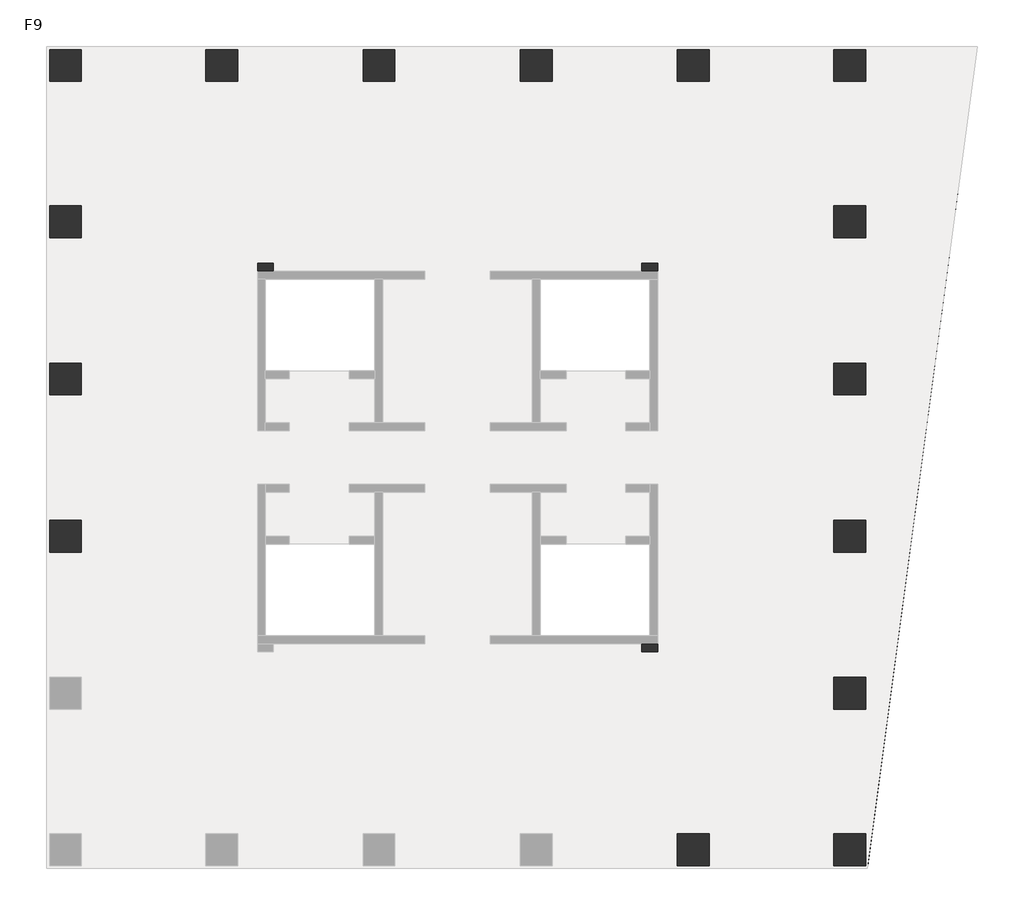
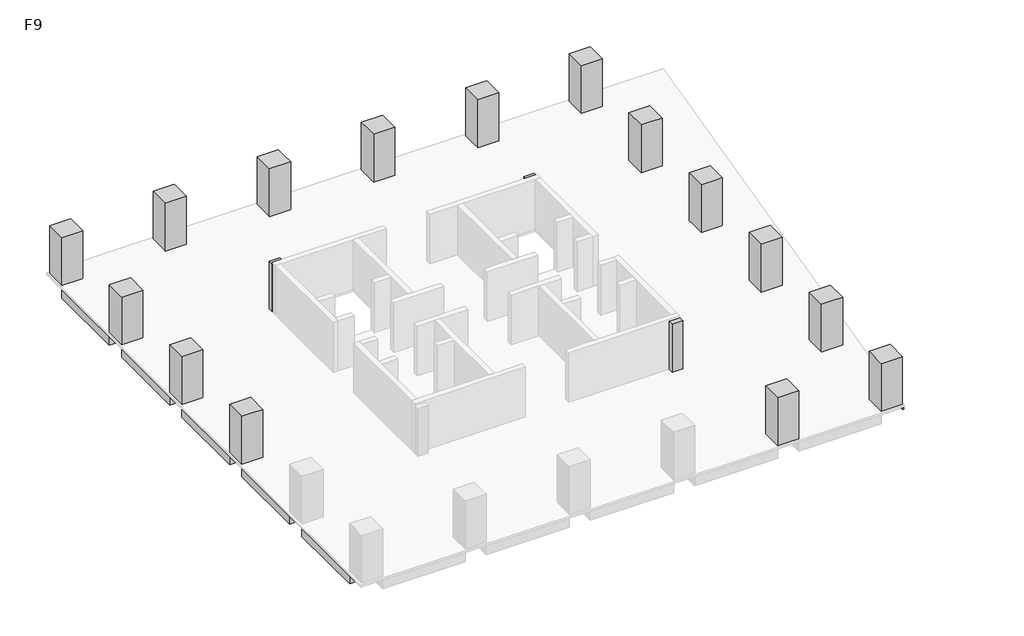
# One storey, part 2 of 2: 21 beams, 18 columns.
"""IFC4 building model written with IfcOpenShell, lengths in millimetres."""

from ifc_helpers import new_model, si_unit, frame, origin, place, context, project, spatial, polyline, outline, extrude, faceted_brep, element, save

model = new_model("IFC4")

# Units and contexts
model_context = context("Model", 3, world=origin())
ifc_project = project(units=[si_unit("LENGTHUNIT", "METRE", prefix="MILLI")], contexts=[model_context])

# Site, building, storey
site = spatial("IfcSite", under=ifc_project)
building = spatial("IfcBuilding", under=site)
storey = spatial("IfcBuildingStorey", under=building, Name="F9", Elevation=36000.0)

# Beams
placement = place(None, origin())
element("IfcBeam", 1, ObjectType="混凝土 - 矩形梁 : KL(5)-800x1000", at=placement, inside=storey, context=model_context, shape_type="SweptSolid", body=[
    extrude(outline(polyline([(25327.3257831, 27051.0498658), (25327.3257831, 26251.0498658), (19077.3257831, 26251.0498658), (19077.3257831, 27051.0498658), (25327.3257831, 27051.0498658)])), frame((0.0, 0.0, 35000.0), z_axis=(0.0, 0.0, 1.0), x_axis=(1.0, 0.0, 0.0)), (0.0, 0.0, 1.0), 840.0),
    extrude(outline(polyline([(-12472.6742169, 26251.0498658), (-12472.6742169, 27051.0498658), (-6222.6742169, 27051.0498658), (-6222.6742169, 26251.0498658), (-12472.6742169, 26251.0498658)])), frame((0.0, 0.0, 35000.0), z_axis=(0.0, 0.0, 1.0), x_axis=(1.0, 0.0, 0.0)), (0.0, 0.0, 1.0), 840.0),
    extrude(outline(polyline([(-4622.6742169, 26251.0498658), (-4622.6742169, 27051.0498658), (1677.3257831, 27051.0498658), (1677.3257831, 26251.0498658), (-4622.6742169, 26251.0498658)])), frame((0.0, 0.0, 35000.0), z_axis=(0.0, 0.0, 1.0), x_axis=(1.0, 0.0, 0.0)), (0.0, 0.0, 1.0), 840.0),
    extrude(outline(polyline([(3277.3257831, 26251.0498658), (3277.3257831, 27051.0498658), (9577.3257831, 27051.0498658), (9577.3257831, 26251.0498658), (3277.3257831, 26251.0498658)])), frame((0.0, 0.0, 35000.0), z_axis=(0.0, 0.0, 1.0), x_axis=(1.0, 0.0, 0.0)), (0.0, 0.0, 1.0), 840.0),
    extrude(outline(polyline([(11177.3257831, 26251.0498658), (11177.3257831, 27051.0498658), (17477.3257831, 27051.0498658), (17477.3257831, 26251.0498658), (11177.3257831, 26251.0498658)])), frame((0.0, 0.0, 35000.0), z_axis=(0.0, 0.0, 1.0), x_axis=(1.0, 0.0, 0.0)), (0.0, 0.0, 1.0), 840.0),
])
element("IfcBeam", 2, ObjectType="混凝土 - 矩形梁 : KL(5)-800x1000", at=placement, inside=storey, context=model_context, shape_type="Brep", body=[
    faceted_brep([(26927.3257831, 26251.0498658, 35000.0), (32422.0087099, 26251.0498658, 35000.0), (32422.0087099, 26251.0498658, 35840.0), (32018.4257091, 26251.0498658, 35840.0), (26927.3257831, 26251.0498658, 35840.0), (32422.0087099, 27051.0498658, 35000.0), (26927.3257831, 27051.0498658, 35000.0), (26927.3257831, 27051.0498658, 35840.0), (32422.0087099, 27051.0498658, 35840.0)], [[[0, 1, 2, 3, 4]], [[5, 1, 0, 6]], [[5, 6, 7, 8]], [[1, 5, 8, 2]], [[6, 0, 4, 7]], [[4, 3, 2, 8, 7]]]),
])
element("IfcBeam", 3, ObjectType="混凝土 - 矩形梁 : KL(5)-800x1000", at=placement, inside=storey, context=model_context, shape_type="Brep", body=[
    faceted_brep([(26127.3257831, -6098.9501342, 35000.0), (26127.3257831, -12348.9501342, 35000.0), (26127.3257831, -12348.9501342, 35840.0), (26127.3257831, -6098.9501342, 35840.0), (26927.3257831, -12348.9501342, 35000.0), (26927.3257831, -6098.9501342, 35000.0), (26927.3257831, -6098.9501342, 35840.0), (26927.3257831, -11700.7859463, 35840.0), (26927.3257831, -12348.9501342, 35840.0)], [[[0, 1, 2, 3]], [[4, 1, 0, 5]], [[4, 5, 6, 7, 8]], [[1, 4, 8, 2]], [[5, 0, 3, 6]], [[3, 2, 8, 7, 6]]]),
    faceted_brep([(26927.3257831, 25451.0498658, 35000.0), (26127.3257831, 25451.0498658, 35000.0), (26127.3257831, 25451.0498658, 35840.0), (26927.3257831, 25451.0498658, 35840.0), (26127.3257831, 19201.0498658, 35000.0), (26927.3257831, 19201.0498658, 35000.0), (26927.3257831, 19201.0498658, 35840.0), (26127.3257831, 19201.0498658, 35840.0)], [[[0, 1, 2, 3]], [[4, 5, 6, 7]], [[1, 4, 7, 2]], [[1, 0, 5, 4]], [[5, 0, 3, 6]], [[3, 2, 7, 6]]]),
    faceted_brep([(26927.3257831, 17601.0498658, 35000.0), (26127.3257831, 17601.0498658, 35000.0), (26127.3257831, 17601.0498658, 35840.0), (26927.3257831, 17601.0498658, 35840.0), (26127.3257831, 11301.0498658, 35000.0), (26927.3257831, 11301.0498658, 35000.0), (26927.3257831, 11301.0498658, 35840.0), (26127.3257831, 11301.0498658, 35840.0)], [[[0, 1, 2, 3]], [[4, 5, 6, 7]], [[1, 4, 7, 2]], [[1, 0, 5, 4]], [[5, 0, 3, 6]], [[3, 2, 7, 6]]]),
    faceted_brep([(26927.3257831, 9701.0498658, 35000.0), (26127.3257831, 9701.0498658, 35000.0), (26127.3257831, 9701.0498658, 35840.0), (26927.3257831, 9701.0498658, 35840.0), (26127.3257831, 3401.0498658, 35000.0), (26927.3257831, 3401.0498658, 35000.0), (26927.3257831, 3401.0498658, 35840.0), (26127.3257831, 3401.0498658, 35840.0)], [[[0, 1, 2, 3]], [[4, 5, 6, 7]], [[1, 4, 7, 2]], [[1, 0, 5, 4]], [[5, 0, 3, 6]], [[3, 2, 7, 6]]]),
    faceted_brep([(26927.3257831, 1801.0498658, 35000.0), (26127.3257831, 1801.0498658, 35000.0), (26127.3257831, 1801.0498658, 35840.0), (26927.3257831, 1801.0498658, 35840.0), (26127.3257831, -4498.9501342, 35000.0), (26927.3257831, -4498.9501342, 35000.0), (26927.3257831, -4498.9501342, 35840.0), (26127.3257831, -4498.9501342, 35840.0)], [[[0, 1, 2, 3]], [[4, 5, 6, 7]], [[1, 4, 7, 2]], [[1, 0, 5, 4]], [[5, 0, 3, 6]], [[3, 2, 7, 6]]]),
])
element("IfcBeam", 4, ObjectType="混凝土 - 矩形梁 : KL(5)-800x1000", at=placement, inside=storey, context=model_context, shape_type="SweptSolid", body=[
    extrude(outline(polyline([(-14072.6742169, 25451.0498658), (-13272.6742169, 25451.0498658), (-13272.6742169, 19201.0498658), (-14072.6742169, 19201.0498658), (-14072.6742169, 25451.0498658)])), frame((0.0, 0.0, 35000.0), z_axis=(0.0, 0.0, 1.0), x_axis=(1.0, 0.0, 0.0)), (0.0, 0.0, 1.0), 840.0),
    extrude(outline(polyline([(-13272.6742169, -12348.9501342), (-14072.6742169, -12348.9501342), (-14072.6742169, -6098.9501342), (-13272.6742169, -6098.9501342), (-13272.6742169, -12348.9501342)])), frame((0.0, 0.0, 35000.0), z_axis=(0.0, 0.0, 1.0), x_axis=(1.0, 0.0, 0.0)), (0.0, 0.0, 1.0), 840.0),
    extrude(outline(polyline([(-14072.6742169, 17601.0498658), (-13272.6742169, 17601.0498658), (-13272.6742169, 11301.0498658), (-14072.6742169, 11301.0498658), (-14072.6742169, 17601.0498658)])), frame((0.0, 0.0, 35000.0), z_axis=(0.0, 0.0, 1.0), x_axis=(1.0, 0.0, 0.0)), (0.0, 0.0, 1.0), 840.0),
    extrude(outline(polyline([(-14072.6742169, 9701.0498658), (-13272.6742169, 9701.0498658), (-13272.6742169, 3401.0498658), (-14072.6742169, 3401.0498658), (-14072.6742169, 9701.0498658)])), frame((0.0, 0.0, 35000.0), z_axis=(0.0, 0.0, 1.0), x_axis=(1.0, 0.0, 0.0)), (0.0, 0.0, 1.0), 840.0),
    extrude(outline(polyline([(-14072.6742169, 1801.0498658), (-13272.6742169, 1801.0498658), (-13272.6742169, -4498.9501342), (-14072.6742169, -4498.9501342), (-14072.6742169, 1801.0498658)])), frame((0.0, 0.0, 35000.0), z_axis=(0.0, 0.0, 1.0), x_axis=(1.0, 0.0, 0.0)), (0.0, 0.0, 1.0), 840.0),
])
element("IfcBeam", 5, ObjectType="混凝土 - 矩形梁 : L1-800x500", at=placement, inside=storey, context=model_context, shape_type="SweptSolid", body=[
    extrude(outline(polyline([(-12472.6742169, 2201.0498658), (-12472.6742169, 3001.0498658), (-3622.6742169, 3001.0498658), (-3622.6742169, 2201.0498658), (-12472.6742169, 2201.0498658)])), frame((0.0, 0.0, 35500.0), z_axis=(0.0, 0.0, 1.0), x_axis=(1.0, 0.0, 0.0)), (0.0, 0.0, 1.0), 340.0),
])
element("IfcBeam", 6, ObjectType="混凝土 - 矩形梁 : L1-800x500", at=placement, inside=storey, context=model_context, shape_type="SweptSolid", body=[
    extrude(outline(polyline([(-12472.6742169, 10101.0498658), (-12472.6742169, 10901.0498658), (-3622.6742169, 10901.0498658), (-3622.6742169, 10101.0498658), (-12472.6742169, 10101.0498658)])), frame((0.0, 0.0, 35500.0), z_axis=(0.0, 0.0, 1.0), x_axis=(1.0, 0.0, 0.0)), (0.0, 0.0, 1.0), 340.0),
])
element("IfcBeam", 7, ObjectType="混凝土 - 矩形梁 : L1-800x500", at=placement, inside=storey, context=model_context, shape_type="Brep", body=[
    faceted_brep([(-12472.6742169, 17789.85471, 35500.0), (-3622.6742169, 15588.3621727, 35500.0), (-3622.6742169, 15588.3621727, 35840.0), (-12472.6742169, 17789.85471, 35840.0), (-3173.6696907, 16301.0498658, 35500.0), (-3622.6742169, 16301.0498658, 35500.0), (-3622.6742169, 15901.0498658, 35500.0), (-12472.6742169, 18614.2350714, 35500.0), (-3746.9473979, 16443.6562607, 35500.0), (-12472.6742169, 18614.2350714, 35840.0), (-3746.9473979, 16443.6562607, 35840.0), (-3173.6696907, 16301.0498658, 35840.0), (-3622.6742169, 16301.0498658, 35840.0)], [[[0, 1, 2, 3]], [[4, 5, 6, 1, 0, 7, 8]], [[4, 8, 7, 9, 10, 11]], [[6, 5, 12, 2, 1]], [[5, 4, 11, 12]], [[7, 0, 3, 9]], [[3, 2, 12, 11, 10, 9]]]),
])
element("IfcBeam", 8, ObjectType="混凝土 - 矩形梁 : L1-800x500", at=placement, inside=storey, context=model_context, shape_type="SweptSolid", body=[
    extrude(outline(polyline([(-3173.6696907, 16301.0498658), (-3746.9473979, 16443.6562607), (-5661.5624638, 25451.0498658), (-4843.6893517, 25451.0498658), (-2898.7618154, 16301.0498658), (-3173.6696907, 16301.0498658)])), frame((0.0, 0.0, 35500.0), z_axis=(0.0, 0.0, 1.0), x_axis=(1.0, 0.0, 0.0)), (0.0, 0.0, 1.0), 340.0),
])
element("IfcBeam", 9, ObjectType="混凝土 - 矩形梁 : L1-800x500", at=placement, inside=storey, context=model_context, shape_type="SweptSolid", body=[
    extrude(outline(polyline([(2077.3257831, 25451.0498658), (2877.3257831, 25451.0498658), (2877.3257831, 15901.0498658), (2077.3257831, 15901.0498658), (2077.3257831, 25451.0498658)])), frame((0.0, 0.0, 35500.0), z_axis=(0.0, 0.0, 1.0), x_axis=(1.0, 0.0, 0.0)), (0.0, 0.0, 1.0), 340.0),
])
element("IfcBeam", 10, ObjectType="混凝土 - 矩形梁 : L1-800x500", at=placement, inside=storey, context=model_context, shape_type="SweptSolid", body=[
    extrude(outline(polyline([(9977.3257831, 25451.0498658), (10777.3257831, 25451.0498658), (10777.3257831, 15901.0498658), (9977.3257831, 15901.0498658), (9977.3257831, 25451.0498658)])), frame((0.0, 0.0, 35500.0), z_axis=(0.0, 0.0, 1.0), x_axis=(1.0, 0.0, 0.0)), (0.0, 0.0, 1.0), 340.0),
])
element("IfcBeam", 11, ObjectType="混凝土 - 矩形梁 : L1-800x500", at=placement, inside=storey, context=model_context, shape_type="Brep", body=[
    faceted_brep([(25327.3257831, -4687.7549784, 35500.0), (16477.3257831, -2486.2624411, 35500.0), (16477.3257831, -2486.2624411, 35840.0), (25327.3257831, -4687.7549784, 35840.0), (16028.3212569, -3198.9501342, 35500.0), (16477.3257831, -3198.9501342, 35500.0), (16477.3257831, -2798.9501342, 35500.0), (25327.3257831, -5512.1353397, 35500.0), (16601.5989641, -3341.556529, 35500.0), (25327.3257831, -5512.1353397, 35840.0), (16601.5989641, -3341.556529, 35840.0), (16028.3212569, -3198.9501342, 35840.0), (16477.3257831, -3198.9501342, 35840.0)], [[[0, 1, 2, 3]], [[4, 5, 6, 1, 0, 7, 8]], [[4, 8, 7, 9, 10, 11]], [[6, 5, 12, 2, 1]], [[5, 4, 11, 12]], [[7, 0, 3, 9]], [[3, 2, 12, 11, 10, 9]]]),
])
element("IfcBeam", 12, ObjectType="混凝土 - 矩形梁 : L1-800x500", at=placement, inside=storey, context=model_context, shape_type="SweptSolid", body=[
    extrude(outline(polyline([(16028.3212569, -3198.9501342), (16601.5989641, -3341.556529), (18516.21403, -12348.9501342), (17698.3409179, -12348.9501342), (15753.4133817, -3198.9501342), (16028.3212569, -3198.9501342)])), frame((0.0, 0.0, 35500.0), z_axis=(0.0, 0.0, 1.0), x_axis=(1.0, 0.0, 0.0)), (0.0, 0.0, 1.0), 340.0),
])
element("IfcBeam", 13, ObjectType="混凝土 - 矩形梁 : L1-800x500", at=placement, inside=storey, context=model_context, shape_type="SweptSolid", body=[
    extrude(outline(polyline([(25327.3257831, 3001.0498658), (25327.3257831, 2201.0498658), (16477.3257831, 2201.0498658), (16477.3257831, 3001.0498658), (25327.3257831, 3001.0498658)])), frame((0.0, 0.0, 35500.0), z_axis=(0.0, 0.0, 1.0), x_axis=(1.0, 0.0, 0.0)), (0.0, 0.0, 1.0), 340.0),
])
element("IfcBeam", 14, ObjectType="混凝土 - 矩形梁 : L1-800x500", at=placement, inside=storey, context=model_context, shape_type="SweptSolid", body=[
    extrude(outline(polyline([(25327.3257831, 10901.0498658), (25327.3257831, 10101.0498658), (16477.3257831, 10101.0498658), (16477.3257831, 10901.0498658), (25327.3257831, 10901.0498658)])), frame((0.0, 0.0, 35500.0), z_axis=(0.0, 0.0, 1.0), x_axis=(1.0, 0.0, 0.0)), (0.0, 0.0, 1.0), 340.0),
])
element("IfcBeam", 15, ObjectType="混凝土 - 矩形梁 : L1-800x500", at=placement, inside=storey, context=model_context, shape_type="Brep", body=[
    faceted_brep([(25327.3257831, 18610.6867312, 35500.0), (16590.8993897, 16393.3196262, 35500.0), (16227.3565337, 16301.0498658, 35500.0), (16227.3565337, 16301.0498658, 35840.0), (16590.8993897, 16393.3196262, 35840.0), (25327.3257831, 18610.6867312, 35840.0), (16477.3257831, 16301.0498658, 35500.0), (25327.3257831, 17785.3216299, 35500.0), (16477.3257831, 15539.1287365, 35500.0), (16477.3257831, 15901.0498658, 35500.0), (25327.3257831, 17785.3216299, 35840.0), (16477.3257831, 15539.1287365, 35840.0), (16477.3257831, 16301.0498658, 35840.0)], [[[0, 1, 2, 3, 4, 5]], [[6, 2, 1, 0, 7, 8, 9]], [[8, 7, 10, 11]], [[9, 8, 11, 12, 6]], [[2, 6, 12, 3]], [[7, 0, 5, 10]], [[5, 4, 3, 12, 11, 10]]]),
])
element("IfcBeam", 16, ObjectType="混凝土 - 矩形梁 : L1-800x500", at=placement, inside=storey, context=model_context, shape_type="SweptSolid", body=[
    extrude(outline(polyline([(16590.8993897, 16393.3196262), (16227.3565337, 16301.0498658), (15753.4133817, 16301.0498658), (17698.3409179, 25451.0498658), (18516.21403, 25451.0498658), (16590.8993897, 16393.3196262)])), frame((0.0, 0.0, 35500.0), z_axis=(0.0, 0.0, 1.0), x_axis=(1.0, 0.0, 0.0)), (0.0, 0.0, 1.0), 340.0),
])
element("IfcBeam", 17, ObjectType="混凝土 - 矩形梁 : L2-400x400", at=placement, inside=storey, context=model_context, shape_type="Brep", body=[
    faceted_brep([(32422.0087099, 26251.0498658, 35600.0), (27029.3257831, -13948.9501342, 35600.0), (26927.3257831, -13935.2672073, 35600.0), (26927.3257831, -11700.7859463, 35600.0), (27759.2793677, -5498.9501342, 35600.0), (27812.9379042, -5098.9501342, 35600.0), (28819.0354652, 2401.0498658, 35600.0), (28872.6940018, 2801.0498658, 35600.0), (29878.7915628, 10301.0498658, 35600.0), (29932.4500994, 10701.0498658, 35600.0), (30938.5476603, 18201.0498658, 35600.0), (30992.2061969, 18601.0498658, 35600.0), (32018.4257091, 26251.0498658, 35600.0), (32422.0087099, 26251.0498658, 35840.0), (27029.3257831, -13948.9501342, 35840.0), (32018.4257091, 26251.0498658, 35840.0), (26927.3257831, -13935.2672073, 35840.0), (26927.3257831, -12348.9501342, 35840.0), (26927.3257831, -11700.7859463, 35840.0), (27759.2793677, -5498.9501342, 35840.0), (27812.9379042, -5098.9501342, 35840.0), (28819.0354652, 2401.0498658, 35840.0), (28872.6940018, 2801.0498658, 35840.0), (29878.7915628, 10301.0498658, 35840.0), (29932.4500994, 10701.0498658, 35840.0), (30938.5476603, 18201.0498658, 35840.0), (30992.2061969, 18601.0498658, 35840.0)], [[[0, 1, 2, 3, 4, 5, 6, 7, 8, 9, 10, 11, 12]], [[1, 0, 13, 14]], [[0, 12, 15, 13]], [[3, 2, 16, 17, 18]], [[12, 11, 10, 9, 8, 7, 6, 5, 4, 3, 18, 19, 20, 21, 22, 23, 24, 25, 26, 15]], [[2, 1, 14, 16]], [[14, 13, 15, 26, 25, 24, 23, 22, 21, 20, 19, 18, 17, 16]]]),
])
element("IfcBeam", 18, ObjectType="混凝土 - 矩形梁 : L2-400x400", at=placement, inside=storey, context=model_context, shape_type="SweptSolid", body=[
    extrude(outline(polyline([(30938.5476603, 18201.0498658), (26927.3257831, 18201.0498658), (26927.3257831, 18601.0498658), (30992.2061969, 18601.0498658), (30938.5476603, 18201.0498658)])), frame((0.0, 0.0, 35600.0), z_axis=(0.0, 0.0, 1.0), x_axis=(1.0, 0.0, 0.0)), (0.0, 0.0, 1.0), 240.0),
])
element("IfcBeam", 19, ObjectType="混凝土 - 矩形梁 : L2-400x400", at=placement, inside=storey, context=model_context, shape_type="SweptSolid", body=[
    extrude(outline(polyline([(29878.7915628, 10301.0498658), (26927.3257831, 10301.0498658), (26927.3257831, 10701.0498658), (29932.4500994, 10701.0498658), (29878.7915628, 10301.0498658)])), frame((0.0, 0.0, 35600.0), z_axis=(0.0, 0.0, 1.0), x_axis=(1.0, 0.0, 0.0)), (0.0, 0.0, 1.0), 240.0),
])
element("IfcBeam", 20, ObjectType="混凝土 - 矩形梁 : L2-400x400", at=placement, inside=storey, context=model_context, shape_type="SweptSolid", body=[
    extrude(outline(polyline([(28819.0354652, 2401.0498658), (26927.3257831, 2401.0498658), (26927.3257831, 2801.0498658), (28872.6940018, 2801.0498658), (28819.0354652, 2401.0498658)])), frame((0.0, 0.0, 35600.0), z_axis=(0.0, 0.0, 1.0), x_axis=(1.0, 0.0, 0.0)), (0.0, 0.0, 1.0), 240.0),
])
element("IfcBeam", 21, ObjectType="混凝土 - 矩形梁 : L2-400x400", at=placement, inside=storey, context=model_context, shape_type="SweptSolid", body=[
    extrude(outline(polyline([(27759.2793677, -5498.9501342), (26927.3257831, -5498.9501342), (26927.3257831, -5098.9501342), (27812.9379042, -5098.9501342), (27759.2793677, -5498.9501342)])), frame((0.0, 0.0, 35600.0), z_axis=(0.0, 0.0, 1.0), x_axis=(1.0, 0.0, 0.0)), (0.0, 0.0, 1.0), 240.0),
])

# Columns
element("IfcColumn", 22, ObjectType="混凝土 - 矩形 - 柱 : Z1-1600x1600", at=placement, inside=storey, context=model_context, shape_type="SweptSolid", body=[
    extrude(outline(polyline([(-12472.6742169, 27051.0498658), (-12472.6742169, 25451.0498658), (-14072.6742169, 25451.0498658), (-14072.6742169, 27051.0498658), (-12472.6742169, 27051.0498658)])), frame((0.0, 0.0, 36000.0), z_axis=(0.0, 0.0, 1.0), x_axis=(1.0, 0.0, 0.0)), (0.0, 0.0, 1.0), 3840.0),
])
element("IfcColumn", 23, ObjectType="混凝土 - 矩形 - 柱 : Z1-1600x1600", at=placement, inside=storey, context=model_context, shape_type="Brep", body=[
    faceted_brep([(-4622.6742169, 27051.0498658, 36000.0), (-4622.6742169, 25451.0498658, 36000.0), (-6222.6742169, 25451.0498658, 36000.0), (-6222.6742169, 27051.0498658, 36000.0), (-4622.6742169, 27051.0498658, 39000.0), (-4622.6742169, 27051.0498658, 39840.0), (-4622.6742169, 26251.0498658, 39840.0), (-4622.6742169, 25451.0498658, 39840.0), (-6222.6742169, 25451.0498658, 39840.0), (-6222.6742169, 26251.0498658, 39840.0), (-6222.6742169, 27051.0498658, 39840.0), (-6222.6742169, 27051.0498658, 39000.0)], [[[0, 1, 2, 3]], [[1, 0, 4, 5, 6, 7]], [[2, 1, 7, 8]], [[3, 2, 8, 9, 10, 11]], [[0, 3, 11, 10, 5, 4]], [[7, 6, 5, 10, 9, 8]]]),
])
element("IfcColumn", 24, ObjectType="混凝土 - 矩形 - 柱 : Z1-1600x1600", at=placement, inside=storey, context=model_context, shape_type="Brep", body=[
    faceted_brep([(-12472.6742169, 19201.0498658, 36000.0), (-12472.6742169, 17601.0498658, 36000.0), (-14072.6742169, 17601.0498658, 36000.0), (-14072.6742169, 19201.0498658, 36000.0), (-12472.6742169, 19201.0498658, 39840.0), (-12472.6742169, 17601.0498658, 39840.0), (-13272.6742169, 17601.0498658, 39840.0), (-14072.6742169, 17601.0498658, 39840.0), (-14072.6742169, 17601.0498658, 39000.0), (-14072.6742169, 19201.0498658, 39840.0), (-14072.6742169, 19201.0498658, 39000.0), (-13272.6742169, 19201.0498658, 39840.0)], [[[0, 1, 2, 3]], [[1, 0, 4, 5]], [[2, 1, 5, 6, 7, 8]], [[3, 2, 8, 7, 9, 10]], [[0, 3, 10, 9, 11, 4]], [[5, 4, 11, 9, 7, 6]]]),
])
element("IfcColumn", 25, ObjectType="混凝土 - 矩形 - 柱 : Z1-1600x1600", at=placement, inside=storey, context=model_context, shape_type="Brep", body=[
    faceted_brep([(-12472.6742169, 11301.0498658, 36000.0), (-12472.6742169, 9701.0498658, 36000.0), (-14072.6742169, 9701.0498658, 36000.0), (-14072.6742169, 11301.0498658, 36000.0), (-12472.6742169, 11301.0498658, 39840.0), (-12472.6742169, 9701.0498658, 39840.0), (-13272.6742169, 9701.0498658, 39840.0), (-14072.6742169, 9701.0498658, 39840.0), (-14072.6742169, 9701.0498658, 39000.0), (-14072.6742169, 11301.0498658, 39840.0), (-14072.6742169, 11301.0498658, 39000.0), (-13272.6742169, 11301.0498658, 39840.0)], [[[0, 1, 2, 3]], [[1, 0, 4, 5]], [[2, 1, 5, 6, 7, 8]], [[3, 2, 8, 7, 9, 10]], [[0, 3, 10, 9, 11, 4]], [[5, 4, 11, 9, 7, 6]]]),
])
element("IfcColumn", 26, ObjectType="混凝土 - 矩形 - 柱 : Z1-1600x1600", at=placement, inside=storey, context=model_context, shape_type="Brep", body=[
    faceted_brep([(-12472.6742169, 3401.0498658, 36000.0), (-12472.6742169, 1801.0498658, 36000.0), (-14072.6742169, 1801.0498658, 36000.0), (-14072.6742169, 3401.0498658, 36000.0), (-12472.6742169, 3401.0498658, 39840.0), (-12472.6742169, 1801.0498658, 39840.0), (-13272.6742169, 1801.0498658, 39840.0), (-14072.6742169, 1801.0498658, 39840.0), (-14072.6742169, 1801.0498658, 39000.0), (-14072.6742169, 3401.0498658, 39840.0), (-14072.6742169, 3401.0498658, 39000.0), (-13272.6742169, 3401.0498658, 39840.0)], [[[0, 1, 2, 3]], [[1, 0, 4, 5]], [[2, 1, 5, 6, 7, 8]], [[3, 2, 8, 7, 9, 10]], [[0, 3, 10, 9, 11, 4]], [[5, 4, 11, 9, 7, 6]]]),
])
element("IfcColumn", 27, ObjectType="混凝土 - 矩形 - 柱 : Z1-1600x1600", at=placement, inside=storey, context=model_context, shape_type="SweptSolid", body=[
    extrude(outline(polyline([(25327.3257831, 27051.0498658), (26927.3257831, 27051.0498658), (26927.3257831, 25451.0498658), (25327.3257831, 25451.0498658), (25327.3257831, 27051.0498658)])), frame((0.0, 0.0, 36000.0), z_axis=(0.0, 0.0, 1.0), x_axis=(1.0, 0.0, 0.0)), (0.0, 0.0, 1.0), 3840.0),
])
element("IfcColumn", 28, ObjectType="混凝土 - 矩形 - 柱 : Z1-1600x1600", at=placement, inside=storey, context=model_context, shape_type="Brep", body=[
    faceted_brep([(25327.3257831, 19201.0498658, 36000.0), (26927.3257831, 19201.0498658, 36000.0), (26927.3257831, 17601.0498658, 36000.0), (25327.3257831, 17601.0498658, 36000.0), (25327.3257831, 17601.0498658, 39840.0), (25327.3257831, 19201.0498658, 39840.0), (26927.3257831, 17601.0498658, 39000.0), (26927.3257831, 17601.0498658, 39840.0), (26127.3257831, 17601.0498658, 39840.0), (26927.3257831, 19201.0498658, 39000.0), (26927.3257831, 19201.0498658, 39840.0), (26127.3257831, 19201.0498658, 39840.0)], [[[0, 1, 2, 3]], [[0, 3, 4, 5]], [[3, 2, 6, 7, 8, 4]], [[2, 1, 9, 10, 7, 6]], [[1, 0, 5, 11, 10, 9]], [[5, 4, 8, 7, 10, 11]]]),
])
element("IfcColumn", 29, ObjectType="混凝土 - 矩形 - 柱 : Z1-1600x1600", at=placement, inside=storey, context=model_context, shape_type="Brep", body=[
    faceted_brep([(25327.3257831, 11301.0498658, 36000.0), (26927.3257831, 11301.0498658, 36000.0), (26927.3257831, 9701.0498658, 36000.0), (25327.3257831, 9701.0498658, 36000.0), (25327.3257831, 9701.0498658, 39840.0), (25327.3257831, 11301.0498658, 39840.0), (26927.3257831, 9701.0498658, 39000.0), (26927.3257831, 9701.0498658, 39840.0), (26127.3257831, 9701.0498658, 39840.0), (26927.3257831, 11301.0498658, 39000.0), (26927.3257831, 11301.0498658, 39840.0), (26127.3257831, 11301.0498658, 39840.0)], [[[0, 1, 2, 3]], [[0, 3, 4, 5]], [[3, 2, 6, 7, 8, 4]], [[2, 1, 9, 10, 7, 6]], [[1, 0, 5, 11, 10, 9]], [[5, 4, 8, 7, 10, 11]]]),
])
element("IfcColumn", 30, ObjectType="混凝土 - 矩形 - 柱 : Z1-1600x1600", at=placement, inside=storey, context=model_context, shape_type="Brep", body=[
    faceted_brep([(25327.3257831, 3401.0498658, 36000.0), (26927.3257831, 3401.0498658, 36000.0), (26927.3257831, 1801.0498658, 36000.0), (25327.3257831, 1801.0498658, 36000.0), (25327.3257831, 1801.0498658, 39840.0), (25327.3257831, 3401.0498658, 39840.0), (26927.3257831, 1801.0498658, 39000.0), (26927.3257831, 1801.0498658, 39840.0), (26127.3257831, 1801.0498658, 39840.0), (26927.3257831, 3401.0498658, 39000.0), (26927.3257831, 3401.0498658, 39840.0), (26127.3257831, 3401.0498658, 39840.0)], [[[0, 1, 2, 3]], [[0, 3, 4, 5]], [[3, 2, 6, 7, 8, 4]], [[2, 1, 9, 10, 7, 6]], [[1, 0, 5, 11, 10, 9]], [[5, 4, 8, 7, 10, 11]]]),
])
element("IfcColumn", 31, ObjectType="混凝土 - 矩形 - 柱 : Z1-1600x1600", at=placement, inside=storey, context=model_context, shape_type="Brep", body=[
    faceted_brep([(25327.3257831, -4498.9501342, 36000.0), (26927.3257831, -4498.9501342, 36000.0), (26927.3257831, -6098.9501342, 36000.0), (25327.3257831, -6098.9501342, 36000.0), (25327.3257831, -6098.9501342, 39840.0), (25327.3257831, -4498.9501342, 39840.0), (26927.3257831, -6098.9501342, 39000.0), (26927.3257831, -6098.9501342, 39840.0), (26127.3257831, -6098.9501342, 39840.0), (26927.3257831, -4498.9501342, 39000.0), (26927.3257831, -4498.9501342, 39840.0), (26127.3257831, -4498.9501342, 39840.0)], [[[0, 1, 2, 3]], [[0, 3, 4, 5]], [[3, 2, 6, 7, 8, 4]], [[2, 1, 9, 10, 7, 6]], [[1, 0, 5, 11, 10, 9]], [[5, 4, 8, 7, 10, 11]]]),
])
element("IfcColumn", 32, ObjectType="混凝土 - 矩形 - 柱 : Z1-1600x1600", at=placement, inside=storey, context=model_context, shape_type="SweptSolid", body=[
    extrude(outline(polyline([(25327.3257831, -12348.9501342), (26927.3257831, -12348.9501342), (26927.3257831, -13948.9501342), (25327.3257831, -13948.9501342), (25327.3257831, -12348.9501342)])), frame((0.0, 0.0, 36000.0), z_axis=(0.0, 0.0, 1.0), x_axis=(1.0, 0.0, 0.0)), (0.0, 0.0, 1.0), 3840.0),
])
element("IfcColumn", 33, ObjectType="混凝土 - 矩形 - 柱 : Z1-1600x1600", at=placement, inside=storey, context=model_context, shape_type="Brep", body=[
    faceted_brep([(3277.3257831, 27051.0498658, 36000.0), (3277.3257831, 25451.0498658, 36000.0), (1677.3257831, 25451.0498658, 36000.0), (1677.3257831, 27051.0498658, 36000.0), (3277.3257831, 27051.0498658, 39000.0), (3277.3257831, 27051.0498658, 39840.0), (3277.3257831, 26251.0498658, 39840.0), (3277.3257831, 25451.0498658, 39840.0), (1677.3257831, 25451.0498658, 39840.0), (1677.3257831, 26251.0498658, 39840.0), (1677.3257831, 27051.0498658, 39840.0), (1677.3257831, 27051.0498658, 39000.0)], [[[0, 1, 2, 3]], [[1, 0, 4, 5, 6, 7]], [[2, 1, 7, 8]], [[3, 2, 8, 9, 10, 11]], [[0, 3, 11, 10, 5, 4]], [[7, 6, 5, 10, 9, 8]]]),
])
element("IfcColumn", 34, ObjectType="混凝土 - 矩形 - 柱 : Z1-1600x1600", at=placement, inside=storey, context=model_context, shape_type="Brep", body=[
    faceted_brep([(11177.3257831, 27051.0498658, 36000.0), (11177.3257831, 25451.0498658, 36000.0), (9577.3257831, 25451.0498658, 36000.0), (9577.3257831, 27051.0498658, 36000.0), (11177.3257831, 27051.0498658, 39000.0), (11177.3257831, 27051.0498658, 39840.0), (11177.3257831, 26251.0498658, 39840.0), (11177.3257831, 25451.0498658, 39840.0), (9577.3257831, 25451.0498658, 39840.0), (9577.3257831, 26251.0498658, 39840.0), (9577.3257831, 27051.0498658, 39840.0), (9577.3257831, 27051.0498658, 39000.0)], [[[0, 1, 2, 3]], [[1, 0, 4, 5, 6, 7]], [[2, 1, 7, 8]], [[3, 2, 8, 9, 10, 11]], [[0, 3, 11, 10, 5, 4]], [[7, 6, 5, 10, 9, 8]]]),
])
element("IfcColumn", 35, ObjectType="混凝土 - 矩形 - 柱 : Z1-1600x1600", at=placement, inside=storey, context=model_context, shape_type="Brep", body=[
    faceted_brep([(19077.3257831, 27051.0498658, 36000.0), (19077.3257831, 25451.0498658, 36000.0), (17477.3257831, 25451.0498658, 36000.0), (17477.3257831, 27051.0498658, 36000.0), (19077.3257831, 27051.0498658, 39000.0), (19077.3257831, 27051.0498658, 39840.0), (19077.3257831, 26251.0498658, 39840.0), (19077.3257831, 25451.0498658, 39840.0), (17477.3257831, 25451.0498658, 39840.0), (17477.3257831, 26251.0498658, 39840.0), (17477.3257831, 27051.0498658, 39840.0), (17477.3257831, 27051.0498658, 39000.0)], [[[0, 1, 2, 3]], [[1, 0, 4, 5, 6, 7]], [[2, 1, 7, 8]], [[3, 2, 8, 9, 10, 11]], [[0, 3, 11, 10, 5, 4]], [[7, 6, 5, 10, 9, 8]]]),
])
element("IfcColumn", 36, ObjectType="混凝土 - 矩形 - 柱 : Z1-1600x1600", at=placement, inside=storey, context=model_context, shape_type="Brep", body=[
    faceted_brep([(19077.3257831, -12348.9501342, 36000.0), (19077.3257831, -13948.9501342, 36000.0), (17477.3257831, -13948.9501342, 36000.0), (17477.3257831, -12348.9501342, 36000.0), (19077.3257831, -12348.9501342, 39840.0), (19077.3257831, -13148.9501342, 39840.0), (19077.3257831, -13948.9501342, 39840.0), (19077.3257831, -13948.9501342, 39000.0), (17477.3257831, -13948.9501342, 39840.0), (17477.3257831, -13948.9501342, 39000.0), (17477.3257831, -13148.9501342, 39840.0), (17477.3257831, -12348.9501342, 39840.0)], [[[0, 1, 2, 3]], [[1, 0, 4, 5, 6, 7]], [[2, 1, 7, 6, 8, 9]], [[3, 2, 9, 8, 10, 11]], [[0, 3, 11, 4]], [[6, 5, 4, 11, 10, 8]]]),
])
element("IfcColumn", 37, ObjectType="混凝土 - 矩形 - 柱 : Z2-800x800", at=placement, inside=storey, context=model_context, shape_type="SweptSolid", body=[
    extrude(outline(polyline([(-3622.6742169, 16301.0498658), (-2822.6742169, 16301.0498658), (-2822.6742169, 15901.0498658), (-3622.6742169, 15901.0498658), (-3622.6742169, 16301.0498658)])), frame((0.0, 0.0, 36000.0), z_axis=(0.0, 0.0, 1.0), x_axis=(1.0, 0.0, 0.0)), (0.0, 0.0, 1.0), 3840.0),
])
element("IfcColumn", 38, ObjectType="混凝土 - 矩形 - 柱 : Z2-800x800", at=placement, inside=storey, context=model_context, shape_type="SweptSolid", body=[
    extrude(outline(polyline([(16477.3257831, -3198.9501342), (15677.3257831, -3198.9501342), (15677.3257831, -2798.9501342), (16477.3257831, -2798.9501342), (16477.3257831, -3198.9501342)])), frame((0.0, 0.0, 36000.0), z_axis=(0.0, 0.0, 1.0), x_axis=(1.0, 0.0, 0.0)), (0.0, 0.0, 1.0), 3840.0),
])
element("IfcColumn", 39, ObjectType="混凝土 - 矩形 - 柱 : Z2-800x800", at=placement, inside=storey, context=model_context, shape_type="SweptSolid", body=[
    extrude(outline(polyline([(15677.3257831, 16301.0498658), (16477.3257831, 16301.0498658), (16477.3257831, 15901.0498658), (15677.3257831, 15901.0498658), (15677.3257831, 16301.0498658)])), frame((0.0, 0.0, 36000.0), z_axis=(0.0, 0.0, 1.0), x_axis=(1.0, 0.0, 0.0)), (0.0, 0.0, 1.0), 3840.0),
])

save(model, "model.ifc")
